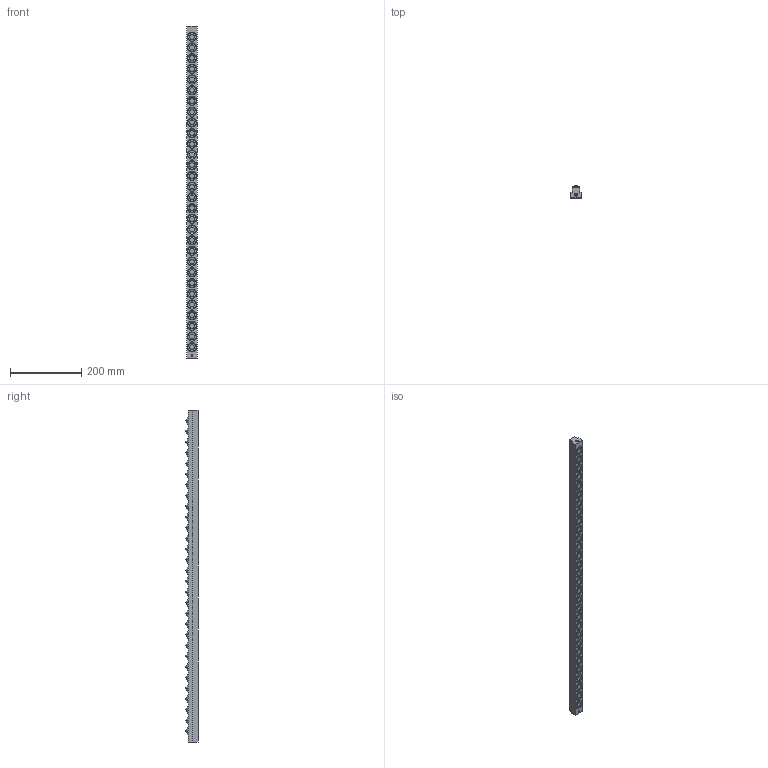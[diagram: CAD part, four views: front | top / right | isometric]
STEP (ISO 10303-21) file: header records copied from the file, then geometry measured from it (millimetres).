
FILE_DESCRIPTION (( 'STEP AP203' ), '1' );
FILE_NAME ('PVL20T-30.STEP', '2016-02-18T07:21:30', ( '' ), ( '' ), 'SwSTEP 2.0', 'SolidWorks 2013', '' );
FILE_SCHEMA (( 'CONFIG_CONTROL_DESIGN' ));
Length unit declared in the file: millimetre
Products named in the file (1): PVL20T-30
Bounding box: 30 x 34 x 930 mm (x, y, z)
Volume: 685625.3 mm3; surface area: 122671.7 mm2
Topology: 1 solids, 1 shells, 862 faces, 2062 edges, 1383 vertices
Faces by surface type: cylinder 486, plane 252, torus 60, sphere 60, cone 4
Entity records: 25873 total; most frequent: DIRECTION 5122, CARTESIAN_POINT 4306, ORIENTED_EDGE 4120, AXIS2_PLACEMENT_3D 2199, EDGE_CURVE 2060, VERTEX_POINT 1383, CIRCLE 1336, EDGE_LOOP 1047
